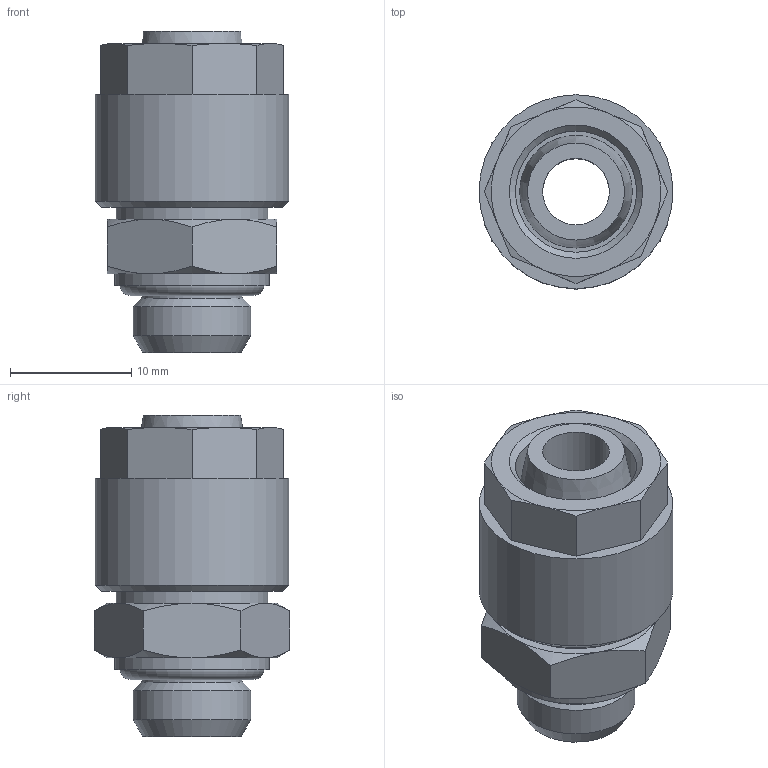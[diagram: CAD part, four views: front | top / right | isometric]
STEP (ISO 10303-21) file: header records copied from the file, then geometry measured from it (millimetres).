
FILE_DESCRIPTION(/* description */ (''),/* implementation_level */ '2;1');
FILE_NAME(/* name */ '10226_301Z_108_18_10.09.15',/* time_stamp */ '2015-09-10T10:47:17+02:00',/* author */ (''),/* organization */ (''),/* preprocessor_version */ 'ST-DEVELOPER v14',/* originating_system */ 'HiCAD 2013 1802.4 Build 509',/* authorisation */ '');
FILE_SCHEMA (('AUTOMOTIVE_DESIGN { 1 0 10303 214 1 1 1 1 }'));
Length unit declared in the file: millimetre
Products named in the file (4): Root; R10226; 17007; OR 7.2X1.9
Assembly tree (3 placements, depth 2):
  Root
    R10226
    17007
    OR 7.2X1.9
Bounding box: 16 x 16.17 x 26.5 mm (x, y, z)
Volume: 3254.9 mm3; surface area: 3293.2 mm2
Topology: 3 solids, 3 shells, 70 faces, 152 edges, 94 vertices
Faces by surface type: cone 31, plane 25, cylinder 10, torus 4
Full cylindrical faces by diameter (mm): 5.5 x1, 8.3 x1, 8.4 x1, 9.728 x1, 10 x1, 12.5 x1, 12.773 x1, 12.8 x1, 14 x1, 16 x1
Entity records: 2939 total; most frequent: DIRECTION 360, CARTESIAN_POINT 273, PRESENTATION_STYLE_ASSIGNMENT 233, COLOUR_RGB 232, DRAUGHTING_PRE_DEFINED_CURVE_FONT 230, CURVE_STYLE 230, OVER_RIDING_STYLED_ITEM 230, ORIENTED_EDGE 230
